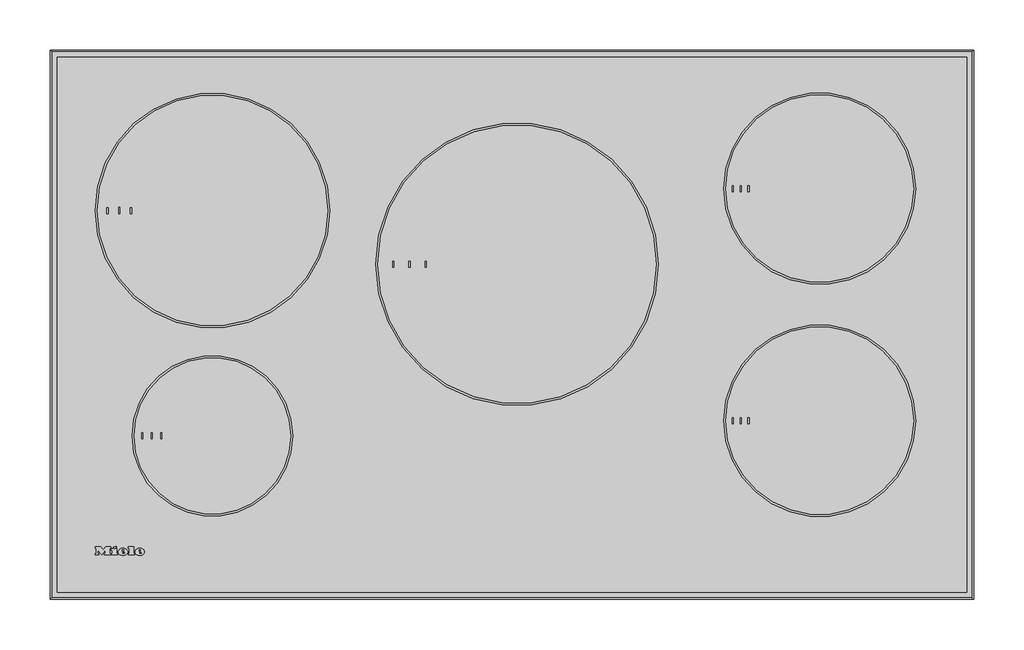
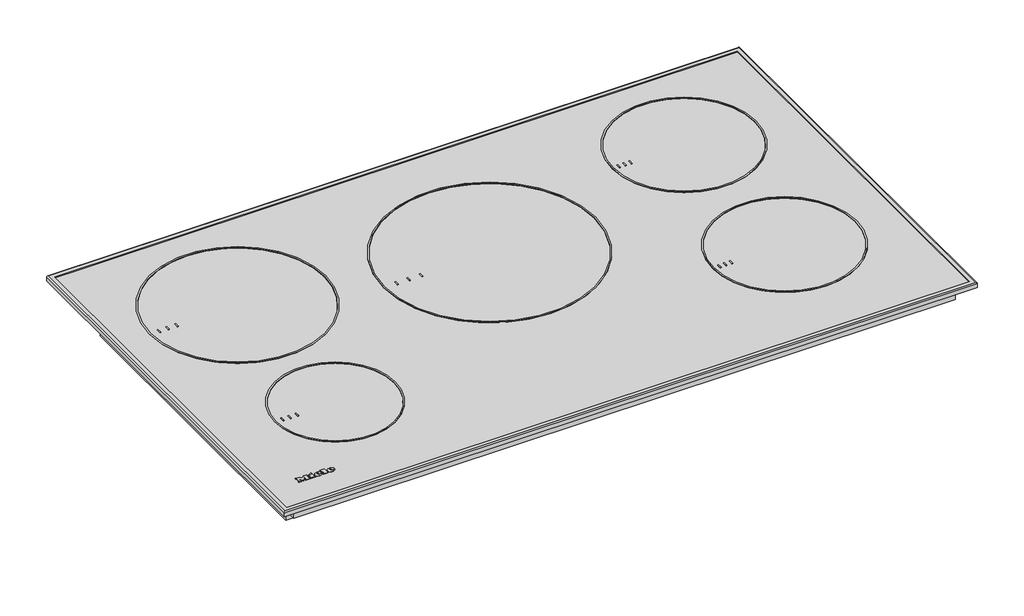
# Not in any storey: 1 proxy.
"""IFC4 building model written with IfcOpenShell, lengths in millimetres."""

from ifc_helpers import new_model, si_unit, origin, place, context, project, spatial, transform, mapped, element, save
from components import specialty_equipment_dfc6e14d

model = new_model("IFC4")

# Units and contexts
model_context = context("Model", 3, world=origin())
ifc_project = project(units=[si_unit("LENGTHUNIT", "METRE", prefix="MILLI")], contexts=[model_context])

# Site, building
site = spatial("IfcSite", under=ifc_project)
building = spatial("IfcBuilding", under=site)

# Proxy
placement = place(None, origin())
specialty_equipment_shape = specialty_equipment_dfc6e14d(model_context)
element("IfcBuildingElementProxy", 1, Name="12074220_USA_KM7740FR : 26774000_USA_12074220_KM7740FR", ObjectType="12074220_USA_KM7740FR : 26774000_USA_12074220_KM7740FR", at=placement, inside=building, context=model_context, shape_type="MappedRepresentation", body=[
    mapped(specialty_equipment_shape, transform((0.0, 0.0, 0.0), x_axis=(1.0, 0.0, 0.0), y_axis=(0.0, 1.0, 0.0), z_axis=(0.0, 0.0, 1.0))),
])

save(model, "model.ifc")
